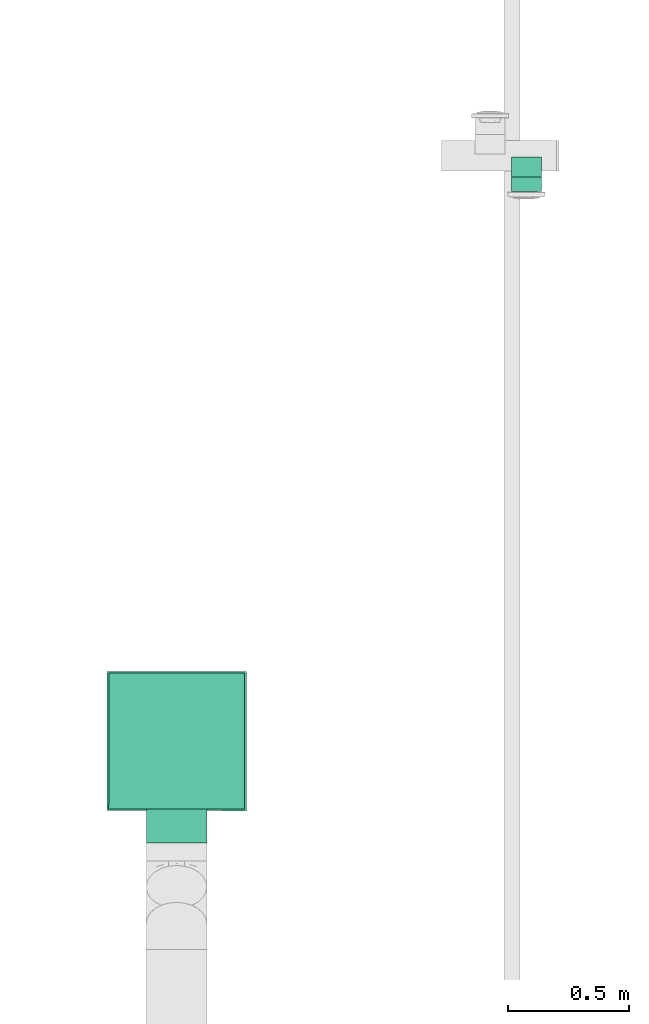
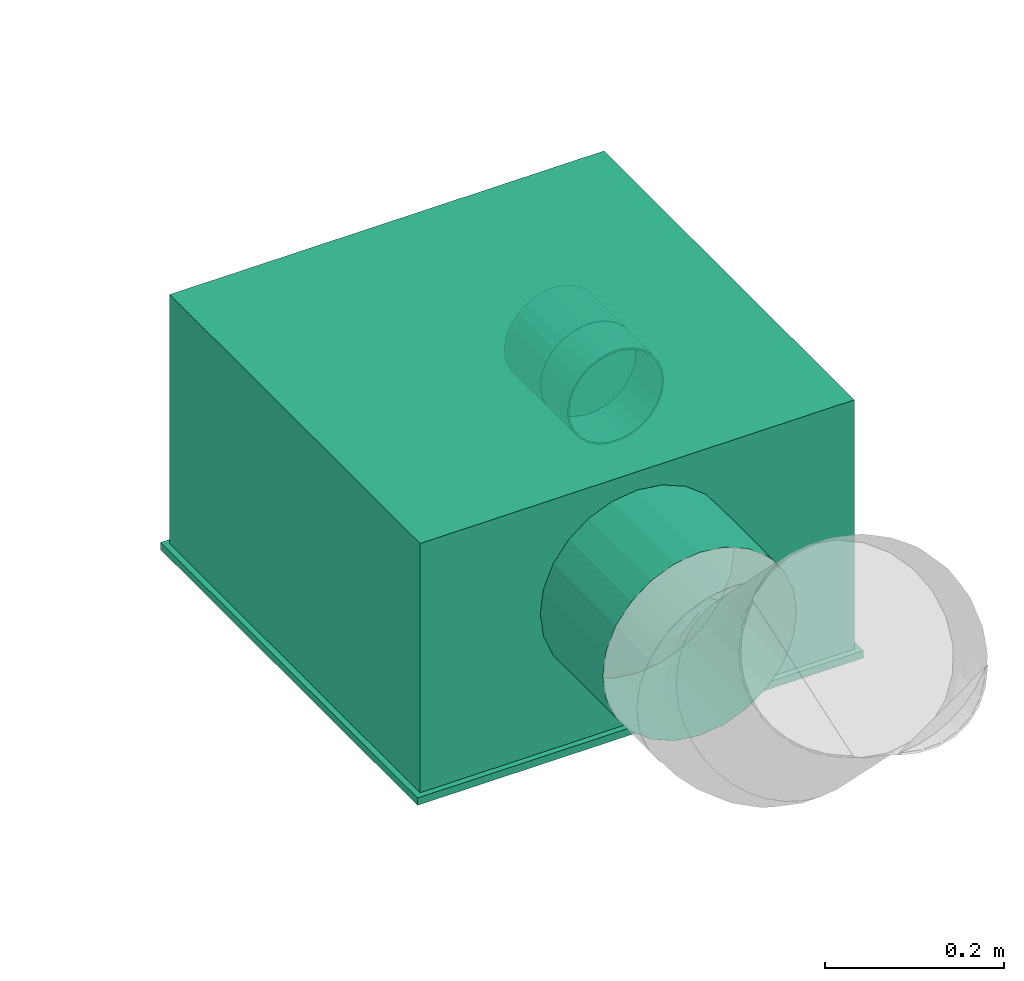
# One storey, part 32 of 63: 1 flow fitting, 1 flow segment, 1 flow terminal.
"""IFC2X3 building model written with IfcOpenShell, lengths in millimetres."""

import ifcopenshell
import ifcopenshell.guid

model = None  # the IFC model being written
_history = None  # IfcOwnerHistory: only IFC2X3 demands one
_inside = {}  # id of a spatial element -> (the spatial element, [elements in it])
_under = {}  # id of a project, library or spatial element -> (it, [spatial elements below it])
_declared = {}  # id of a project -> (the project, [libraries it declares])
_typed = {}  # id of a type object -> (the type object, [elements of that type])
_made_of = {}  # id of a material, layer set ... -> (it, [elements and type objects made of it])


def new_model(schema):
    """Start an empty IFC model of exactly this schema.

    Asked for "IFC4X3", IfcOpenShell would pick the latest addendum, in which some entities
    have other attributes; the version numbers below select the first issue.
    IFC2X3 requires an IfcOwnerHistory on every rooted entity: one is made here for all.
    """
    global model, _history
    if schema == "IFC4X3":
        model = ifcopenshell.file(schema_version=(4, 3, 0, 0))
    else:
        model = ifcopenshell.file(schema=schema)
    _inside.clear()
    _under.clear()
    _declared.clear()
    _typed.clear()
    _made_of.clear()
    _history = None
    if model.schema == "IFC2X3":
        org = make("IfcOrganization", Name="unknown")
        user = make(
            "IfcPersonAndOrganization",
            ThePerson=make("IfcPerson", FamilyName="unknown"),
            TheOrganization=org,
        )
        app = make(
            "IfcApplication",
            ApplicationDeveloper=org,
            Version="unknown",
            ApplicationFullName="unknown",
            ApplicationIdentifier="unknown",
        )
        _history = make(
            "IfcOwnerHistory",
            OwningUser=user,
            OwningApplication=app,
            ChangeAction="ADDED",
            CreationDate=0,
        )
    return model


def make(cls, **values):
    """One entity of the class cls with the attributes given. An attribute that is None is left unset."""
    return model.create_entity(
        cls, **{name: value for name, value in values.items() if value is not None}
    )


def entity(cls, *values):
    """Any entity or typed value of the class cls, its attributes in the order of the schema. None: left unset."""
    e = model.create_entity(cls)
    for i, value in enumerate(values):
        if value is not None:
            e[i] = value
    return e


def rooted(cls, **values):
    """An entity with a GlobalId (a new one), such as an element, a storey or a relation."""
    return make(cls, GlobalId=ifcopenshell.guid.new(), OwnerHistory=_history, **values)


def si_unit(unit_type, name, prefix=None):
    """IfcSIUnit, for example si_unit("LENGTHUNIT", "METRE", prefix="MILLI")."""
    return make("IfcSIUnit", UnitType=unit_type, Prefix=prefix, Name=name)


def converted_unit(unit_type, name, factor, base, dimensions=None, offset=None):
    """IfcConversionBasedUnit, such as the inch: factor (a typed value) times the base unit."""
    return make(
        "IfcConversionBasedUnit"
        if offset is None
        else "IfcConversionBasedUnitWithOffset",
        ConversionOffset=offset,
        Dimensions=None
        if dimensions is None
        else entity("IfcDimensionalExponents", *dimensions),
        UnitType=unit_type,
        Name=name,
        ConversionFactor=make(
            "IfcMeasureWithUnit", ValueComponent=factor, UnitComponent=base
        ),
    )


def derived_unit(unit_type, elements):
    """IfcDerivedUnit: a product of units, each with its exponent."""
    return make(
        "IfcDerivedUnit",
        Elements=[
            make("IfcDerivedUnitElement", Unit=unit, Exponent=power)
            for unit, power in elements
        ],
        UnitType=unit_type,
    )


def assignment(units):
    """IfcUnitAssignment: the units of a project."""
    return None if units is None else make("IfcUnitAssignment", Units=units)


def point(xyz):
    """IfcCartesianPoint."""
    return None if xyz is None else make("IfcCartesianPoint", Coordinates=xyz)


def direction(xyz):
    """IfcDirection."""
    return None if xyz is None else make("IfcDirection", DirectionRatios=xyz)


def frame(location, z_axis=None, x_axis=None):
    """IfcAxis2Placement3D, a coordinate frame: its origin and axes. An axis left out is left unset."""
    return make(
        "IfcAxis2Placement3D",
        Location=point(location),
        Axis=direction(z_axis),
        RefDirection=direction(x_axis),
    )


def frame_2d(location, x_axis=None):
    """IfcAxis2Placement2D, a coordinate frame in the plane: its origin and x axis."""
    return make(
        "IfcAxis2Placement2D", Location=point(location), RefDirection=direction(x_axis)
    )


def origin_with_axes():
    """The frame at (0, 0, 0) with the z axis (0, 0, 1) and the x axis (1, 0, 0) written out."""
    return frame((0.0, 0.0, 0.0), z_axis=(0.0, 0.0, 1.0), x_axis=(1.0, 0.0, 0.0))


def origin_2d_with_axis():
    """The frame at (0, 0) in the plane with the x axis (1, 0) written out."""
    return frame_2d((0.0, 0.0), x_axis=(1.0, 0.0))


def place(relative_to, where):
    """IfcLocalPlacement: puts the frame where relative to a parent placement (None: the world)."""
    return make(
        "IfcLocalPlacement", PlacementRelTo=relative_to, RelativePlacement=where
    )


def context(
    kind, dimensions, precision=None, world=None, true_north=None, identifier=None
):
    """IfcGeometricRepresentationContext, for example the 3D "Model" context."""
    return make(
        "IfcGeometricRepresentationContext",
        ContextIdentifier=identifier,
        ContextType=kind,
        CoordinateSpaceDimension=dimensions,
        Precision=precision,
        WorldCoordinateSystem=world,
        TrueNorth=true_north,
    )


def subcontext(parent, identifier, kind, view, scale=None):
    """IfcGeometricRepresentationSubContext, for example "Body" below "Model"."""
    return make(
        "IfcGeometricRepresentationSubContext",
        ContextIdentifier=identifier,
        ContextType=kind,
        ParentContext=parent,
        TargetScale=scale,
        TargetView=view,
    )


def project(units=None, contexts=None):
    """IfcProject with its units and contexts."""
    return rooted(
        "IfcProject",
        Name="project",
        RepresentationContexts=contexts,
        UnitsInContext=assignment(units),
    )


def spatial(cls, under=None, at=None, **own):
    """A site, building, storey or space (cls), placed at a placement, below another one or the project."""
    s = rooted(cls, ObjectPlacement=at, **own)
    if under is not None:
        _under.setdefault(under.id(), (under, []))[1].append(s)
    return s


def profile(cls, at=None, kind="AREA", **sizes):
    """A parametric profile (cls). Its sizes go by their IFC names, for example OverallWidth=200.0."""
    return make(cls, ProfileType=kind, Position=at, **sizes)


def hollow_circle(**sizes):
    """IfcCircleHollowProfileDef."""
    return profile("IfcCircleHollowProfileDef", **sizes)


def extrude(swept, where, along, depth):
    """IfcExtrudedAreaSolid: the profile swept, set in the frame where, extruded along a direction by depth."""
    return make(
        "IfcExtrudedAreaSolid",
        SweptArea=swept,
        Position=where,
        ExtrudedDirection=direction(along),
        Depth=depth,
    )


def faces_of(points, faces, orient=None, outer=None):
    """IfcFace entities. A face is a list of loops; a loop is a list of indices into points, from 0.

    orient and outer hold one flag for each loop. By default every Orientation is true, the
    first loop of a face is its IfcFaceOuterBound and the others are IfcFaceBound.
    """
    made = []
    for i, loops in enumerate(faces):
        bounds = []
        for j, loop in enumerate(loops):
            is_outer = j == 0 if outer is None else outer[i][j]
            bounds.append(
                make(
                    "IfcFaceOuterBound" if is_outer else "IfcFaceBound",
                    Bound=make("IfcPolyLoop", Polygon=[points[k] for k in loop]),
                    Orientation=True if orient is None else orient[i][j],
                )
            )
        made.append(make("IfcFace", Bounds=bounds))
    return made


def open_shell(faces, orient=None, outer=None):
    """The faces of one IfcOpenShell. surface_model builds it on its shared points."""
    return ("IfcOpenShell", faces, orient, outer)


def surface_model(cls, points, shells):
    """IfcFaceBasedSurfaceModel or IfcShellBasedSurfaceModel (cls): surfaces that need not close."""
    shared = [point(p) for p in points]
    made = [make(c, CfsFaces=faces_of(shared, fs, o, b)) for c, fs, o, b in shells]
    if cls == "IfcFaceBasedSurfaceModel":
        return make(cls, FbsmFaces=made)
    return make(cls, SbsmBoundary=made)


def shape(context_of_items, identifier, shape_type, items):
    """IfcShapeRepresentation: the items that make up one representation, for example the "Body"."""
    return make(
        "IfcShapeRepresentation",
        ContextOfItems=context_of_items,
        RepresentationIdentifier=identifier,
        RepresentationType=shape_type,
        Items=items,
    )


def source(mapping_origin, context_of_items, identifier, shape_type, items):
    """IfcRepresentationMap: a shape defined once, which mapped items show again and again."""
    return make(
        "IfcRepresentationMap",
        MappingOrigin=mapping_origin,
        MappedRepresentation=shape(context_of_items, identifier, shape_type, items),
    )


def transform(
    local_origin,
    x_axis=None,
    y_axis=None,
    z_axis=None,
    scale=None,
    scale2=None,
    scale3=None,
    uniform=True,
):
    """IfcCartesianTransformationOperator3D, or its non-uniform kind. x_axis, y_axis, z_axis: its Axis1, 2, 3."""
    if uniform:
        return make(
            "IfcCartesianTransformationOperator3D",
            Axis1=direction(x_axis),
            Axis2=direction(y_axis),
            LocalOrigin=point(local_origin),
            Scale=scale,
            Axis3=direction(z_axis),
        )
    return make(
        "IfcCartesianTransformationOperator3DnonUniform",
        Axis1=direction(x_axis),
        Axis2=direction(y_axis),
        LocalOrigin=point(local_origin),
        Scale=scale,
        Axis3=direction(z_axis),
        Scale2=scale2,
        Scale3=scale3,
    )


def mapped(mapping_source, mapping_target):
    """IfcMappedItem: shows the shape of a source again, moved by a transform."""
    return make(
        "IfcMappedItem", MappingSource=mapping_source, MappingTarget=mapping_target
    )


def made_of(thing, what):
    """Note that an element or type object is made of a material, layer set ...; save() writes the relation."""
    if what is not None:
        _made_of.setdefault(what.id(), (what, []))[1].append(thing)
    return thing


def type_object(cls, material=None, **own):
    """A type object (cls), such as IfcWallType, which elements share."""
    return made_of(rooted(cls, **own), material)


def element(
    cls,
    number,
    at=None,
    inside=None,
    cuts=None,
    type_object=None,
    material=None,
    context=None,
    identifier="Body",
    shape_type=None,
    held_by="IfcProductDefinitionShape",
    body=None,
    shapes=None,
    **own,
):
    """One element of the class cls, such as IfcWall. Its Tag is "e" and its number.

    at: its placement. inside: the storey or other place that contains it. cuts: it is an
    opening in that element (IfcRelVoidsElement). A single representation is given by context,
    identifier, shape_type and body (its items); several are given by shapes. held_by: the class
    of the entity that holds the representations. save() writes the other relations.
    """
    e = rooted(cls, Tag="e%d" % number, ObjectPlacement=at, **own)
    if body is not None:
        shapes = [shape(context, identifier, shape_type, body)]
    if shapes is not None:
        e.Representation = make(held_by, Representations=shapes)
    if inside is not None:
        _inside.setdefault(inside.id(), (inside, []))[1].append(e)
    if cuts is not None:
        rooted(
            "IfcRelVoidsElement", RelatingBuildingElement=cuts, RelatedOpeningElement=e
        )
    if type_object is not None:
        _typed.setdefault(type_object.id(), (type_object, []))[1].append(e)
    return made_of(e, material)


def aggregate(whole, parts):
    """IfcRelAggregates: a whole, such as a stair, and the parts it consists of."""
    return rooted("IfcRelAggregates", RelatingObject=whole, RelatedObjects=parts)


def save(model, path):
    """Write the relations noted so far, then the file.

    IfcRelAggregates (storeys below a building ...), IfcRelContainedInSpatialStructure (elements
    in a storey), IfcRelDefinesByType, IfcRelAssociatesMaterial and IfcRelDeclares: one each for
    every whole, place, type object, material and project.
    """
    for whole, parts in _under.values():
        aggregate(whole, parts)
    for where, things in _inside.values():
        rooted(
            "IfcRelContainedInSpatialStructure",
            RelatedElements=things,
            RelatingStructure=where,
        )
    for kind, things in _typed.values():
        rooted("IfcRelDefinesByType", RelatedObjects=things, RelatingType=kind)
    for what, things in _made_of.values():
        rooted("IfcRelAssociatesMaterial", RelatedObjects=things, RelatingMaterial=what)
    for by, libraries in _declared.values():
        rooted("IfcRelDeclares", RelatingContext=by, RelatedDefinitions=libraries)
    model.write(path)


model = new_model("IFC2X3")

# Units and contexts
model_context = context("Model", 3, precision=0.01, world=frame((0.0, 4.29681676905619e-09, 0.0)), true_north=direction((4.01073788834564e-13, 1.0)))
plan_context = context("Plan", 3, precision=0.01, world=frame((0.0, 4.29681676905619e-09, 0.0)), true_north=direction((4.01073788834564e-13, 1.0)))
body_context = subcontext(model_context, "Body", "Model", "MODEL_VIEW")
ifc_project = project(units=[converted_unit("PLANEANGLEUNIT", "DEGREE", entity("IfcPositiveLengthMeasure", 0.0174532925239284), si_unit("PLANEANGLEUNIT", "RADIAN"), dimensions=[0, 0, 0, 0, 0, 0, 0]), si_unit("AREAUNIT", "SQUARE_METRE"), si_unit("LENGTHUNIT", "METRE", prefix="MILLI"), si_unit("MASSUNIT", "GRAM", prefix="KILO"), si_unit("POWERUNIT", "WATT"), si_unit("PRESSUREUNIT", "PASCAL"), si_unit("FORCEUNIT", "NEWTON", prefix="KILO"), si_unit("ELECTRICVOLTAGEUNIT", "VOLT"), si_unit("ELECTRICCURRENTUNIT", "AMPERE"), si_unit("THERMODYNAMICTEMPERATUREUNIT", "DEGREE_CELSIUS"), si_unit("TIMEUNIT", "SECOND"), si_unit("VOLUMEUNIT", "CUBIC_METRE"), derived_unit("LINEARVELOCITYUNIT", [(si_unit("LENGTHUNIT", "METRE"), 1), (si_unit("TIMEUNIT", "SECOND"), -1)]), derived_unit("VOLUMETRICFLOWRATEUNIT", [(si_unit("VOLUMEUNIT", "CUBIC_METRE"), 1), (si_unit("TIMEUNIT", "SECOND"), -1)]), derived_unit("THERMALTRANSMITTANCEUNIT", [(si_unit("POWERUNIT", "WATT"), 1), (si_unit("THERMODYNAMICTEMPERATUREUNIT", "KELVIN"), -1), (si_unit("AREAUNIT", "SQUARE_METRE"), -1)]), derived_unit("SOUNDPRESSUREUNIT", [(si_unit("PRESSUREUNIT", "PASCAL"), 1)])], contexts=[model_context, plan_context])

# Site, building, storey
site_placement = place(None, frame((0.0, -4.29681676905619e-09, 0.0), z_axis=(0.0, 0.0, 1.0), x_axis=(1.0, 0.0, 0.0)))
site = spatial("IfcSite", under=ifc_project, at=site_placement, CompositionType="ELEMENT")
building_placement = place(site_placement, frame((0.0, 4.29681676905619e-09, 0.0), z_axis=(0.0, 0.0, 1.0), x_axis=(1.0, 0.0, 0.0)))
building = spatial("IfcBuilding", under=site, at=building_placement, Name="mc-building", CompositionType="ELEMENT")
storey_placement = place(building_placement, frame((0.0, 0.0, 210900.0), z_axis=(0.0, 0.0, 1.0), x_axis=(1.0, 0.0, 0.0)))
storey = spatial("IfcBuildingStorey", under=building, at=storey_placement, Name="Nivå F", CompositionType="ELEMENT", Elevation=210900.0)

# Flow fitting
duct_fitting_type = type_object("IfcDuctFittingType", Name="magicirc_tapoutlet_001", PredefinedType="CONNECTOR")
shared_shape_1 = source(origin_with_axes(), body_context, "Body", "SurfaceModel", [
    surface_model("IfcShellBasedSurfaceModel", [(25.0, 0.0, -62.5), (25.0, -31.25, -54.12659), (25.0, -16.17619, -60.37037), (25.0, 44.19417, -44.19417), (25.0, 62.5, 0.0), (25.0, 31.25, -54.12659), (25.0, 54.12659, -31.25), (25.0, -62.5, 0.0), (25.0, -60.37037, -16.17619), (25.0, -60.37037, 16.17619), (25.0, 16.17619, -60.37037), (25.0, -44.19417, -44.19417), (25.0, -54.12659, -31.25), (25.0, 60.37037, -16.17619), (25.0, 60.37037, 16.17619), (25.0, 54.12659, 31.25), (25.0, 44.19417, 44.19417), (25.0, 31.25, 54.12659), (25.0, 0.0, 62.5), (25.0, 16.17619, 60.37037), (25.0, -44.19417, 44.19417), (25.0, -54.12659, 31.25), (25.0, -16.17619, 60.37037), (25.0, -31.25, 54.12659), (0.0, 0.0, 62.5), (0.0, 16.17619, 60.37037), (0.0, 31.25, 54.12659), (0.0, 44.19417, 44.19417), (0.0, 54.12659, 31.25), (0.0, 60.37037, 16.17619), (0.0, 62.5, 0.0), (0.0, 60.37037, -16.17619), (0.0, 54.12659, -31.25), (0.0, 44.19417, -44.19417), (0.0, 31.25, -54.12659), (0.0, 16.17619, -60.37037), (0.0, 0.0, -62.5), (0.0, -16.17619, -60.37037), (0.0, -31.25, -54.12659), (0.0, -44.19417, -44.19417), (0.0, -54.12659, -31.25), (0.0, -60.37037, -16.17619), (0.0, -62.5, 0.0), (0.0, -60.37037, 16.17619), (0.0, -54.12659, 31.25), (0.0, -44.19417, 44.19417), (0.0, -31.25, 54.12659), (0.0, -16.17619, 60.37037), (-56.404, -44.19417, -44.19417), (-56.404, -54.12659, -31.25), (-56.404, -62.5, 0.0), (-56.404, -31.25, -54.12659), (-56.404, 0.0, -62.5), (-56.404, 62.5, 0.0), (-56.404, 60.37037, -16.17619), (-56.404, 60.37037, 16.17619), (-56.404, -16.17619, -60.37037), (-56.404, 16.17619, -60.37037), (-56.404, 31.25, -54.12659), (-56.404, 44.19417, -44.19417), (-56.404, 54.12659, -31.25), (-56.404, -60.37037, 16.17619), (-56.404, -60.37037, -16.17619), (-56.404, 54.12659, 31.25), (-56.404, 44.19417, 44.19417), (-56.404, 16.17619, 60.37037), (-56.404, 31.25, 54.12659), (-56.404, -16.17619, 60.37037), (-56.404, -54.12659, 31.25), (-56.404, -44.19417, 44.19417), (-56.404, -31.25, 54.12659), (-56.404, 0.0, 62.5)], [open_shell([[[0, 1, 2]], [[3, 4, 5]], [[3, 6, 4]], [[7, 8, 9]], [[10, 4, 0]], [[5, 4, 10]], [[11, 0, 9]], [[0, 11, 1]], [[1, 2, 0]], [[12, 9, 8]], [[9, 12, 11]], [[8, 9, 7]], [[4, 6, 13]], [[14, 15, 0]], [[0, 15, 16]], [[0, 17, 18]], [[16, 17, 0]], [[17, 19, 18]], [[0, 20, 21]], [[21, 9, 0]], [[22, 23, 0]], [[23, 20, 0]], [[22, 0, 18]], [[4, 14, 0]], [[24, 18, 19]], [[25, 19, 17]], [[24, 19, 25]], [[26, 16, 27]], [[26, 25, 17]], [[16, 26, 17]], [[28, 15, 14]], [[29, 14, 4]], [[27, 15, 28]], [[29, 28, 14]], [[30, 29, 4]], [[15, 27, 16]], [[30, 4, 13]], [[31, 13, 6]], [[30, 13, 31]], [[32, 3, 33]], [[32, 31, 6]], [[3, 32, 6]], [[34, 5, 10]], [[35, 10, 0]], [[33, 5, 34]], [[35, 34, 10]], [[36, 35, 0]], [[5, 33, 3]], [[36, 0, 2]], [[37, 2, 1]], [[36, 2, 37]], [[38, 11, 39]], [[38, 37, 1]], [[11, 38, 1]], [[40, 12, 8]], [[41, 8, 7]], [[39, 12, 40]], [[41, 40, 8]], [[42, 41, 7]], [[12, 39, 11]], [[42, 7, 9]], [[43, 9, 21]], [[42, 9, 43]], [[44, 20, 45]], [[44, 43, 21]], [[20, 44, 21]], [[46, 23, 22]], [[47, 22, 18]], [[45, 23, 46]], [[47, 46, 22]], [[24, 47, 18]], [[23, 45, 20]], [[15, 0, 14]], [[15, 16, 0]], [[0, 16, 17]], [[18, 17, 19]], [[9, 0, 21]], [[0, 23, 20]], [[18, 22, 0]], [[14, 0, 4]], [[48, 49, 50]], [[48, 50, 51]], [[36, 37, 52]], [[52, 35, 36]], [[53, 54, 55]], [[52, 56, 57]], [[57, 55, 58]], [[59, 55, 60]], [[58, 55, 59]], [[57, 50, 61]], [[56, 51, 50]], [[62, 50, 49]], [[50, 57, 56]], [[54, 60, 55]], [[55, 57, 63]], [[64, 63, 57]], [[57, 65, 66]], [[57, 66, 64]], [[57, 67, 65]], [[68, 69, 57]], [[57, 61, 68]], [[69, 70, 57]], [[57, 70, 67]], [[67, 71, 65]], [[71, 24, 25]], [[66, 25, 26]], [[71, 25, 65]], [[65, 25, 66]], [[26, 64, 66]], [[26, 27, 64]], [[55, 28, 29]], [[53, 29, 30]], [[27, 63, 64]], [[27, 28, 63]], [[63, 28, 55]], [[29, 53, 55]], [[54, 30, 31]], [[60, 31, 32]], [[53, 30, 54]], [[54, 31, 60]], [[32, 59, 60]], [[32, 33, 59]], [[57, 34, 35]], [[33, 58, 59]], [[33, 34, 58]], [[58, 34, 57]], [[35, 52, 57]], [[37, 38, 51]], [[52, 37, 56]], [[48, 51, 38]], [[37, 51, 56]], [[38, 39, 48]], [[62, 40, 41]], [[50, 41, 42]], [[39, 49, 48]], [[39, 40, 49]], [[49, 40, 62]], [[41, 50, 62]], [[43, 44, 68]], [[42, 43, 61]], [[61, 50, 42]], [[68, 61, 43]], [[44, 69, 68]], [[44, 45, 69]], [[67, 46, 47]], [[71, 47, 24]], [[45, 70, 69]], [[45, 46, 70]], [[70, 46, 67]], [[47, 71, 67]], [[57, 63, 55]], [[57, 64, 63]], [[66, 57, 65]], [[66, 64, 57]], [[65, 57, 67]], [[68, 57, 61]]])]),
])
flow_fitting_placement = place(storey_placement, frame((535548.85714, 456750.54565, 2163.0), z_axis=(0.0, 0.0, -1.0), x_axis=(0.0, -1.0, 0.0)))
element("IfcFlowFitting", 1, at=flow_fitting_placement, inside=storey, type_object=duct_fitting_type, Name="magicirc_tapoutlet_001", context=body_context, shape_type="MappedRepresentation", body=[
    mapped(shared_shape_1, transform((0.0, 0.0, 0.0), scale=1.0)),
])

# Flow segment
duct_segment_type = type_object("IfcDuctSegmentType", Name="KK001T - Spiro kanaler, Forsinket stål", PredefinedType="RIGIDSEGMENT")
shared_shape_2 = source(origin_with_axes(), body_context, "Body", "SweptSolid", [
    extrude(hollow_circle(Radius=62.5, WallThickness=2.0, at=origin_2d_with_axis()), frame((0.0, 0.0, 0.0), z_axis=(1.0, 0.0, 0.0), x_axis=(0.0, 1.0, 0.0)), (0.0, 0.0, 1.0), 60.0),
])
flow_segment_placement = place(storey_placement, frame((535548.85714, 456725.54565, 2163.0), z_axis=(0.0, 0.0, 1.0), x_axis=(0.0, -1.0, 0.0)))
element("IfcFlowSegment", 2, at=flow_segment_placement, inside=storey, type_object=duct_segment_type, Name="KK001T - Spiro kanaler, Forsinket stål", context=body_context, shape_type="MappedRepresentation", body=[
    mapped(shared_shape_2, transform((0.0, 0.0, 0.0), scale=1.0)),
])

# Flow terminal
air_terminal_type = type_object("IfcAirTerminalType", Name="NS19-H-S-2-250 - 4-way", PredefinedType="NOTDEFINED")
shared_shape_3 = source(origin_with_axes(), body_context, "Body", "SurfaceModel", [
    surface_model("IfcShellBasedSurfaceModel", [(-287.5, 287.5, 0.0), (-287.5, -287.5, 0.0), (287.5, -287.5, 0.0), (287.5, 287.5, 0.0), (287.5, 287.5, -10.0), (287.5, -287.5, -10.0), (-287.5, -287.5, -10.0), (-287.5, 287.5, -10.0), (-280.0, 280.0, 340.0), (-280.0, -280.0, 340.0), (280.0, -280.0, 340.0), (280.0, 280.0, 340.0), (280.0, 280.0, 0.0), (280.0, -280.0, 0.0), (-280.0, -280.0, 0.0), (-280.0, 280.0, 0.0), (-280.0, 62.5, 81.74683), (-280.0, 88.38835, 101.61165), (-280.0, 62.4, 81.92003), (-280.0, 32.30062, 69.45246), (-280.0, 0.0, 65.2), (-280.0, 32.35238, 69.25927), (-280.0, 0.0, 65.0), (-280.0, 88.24693, 101.75307), (-280.0, 120.74073, 157.64763), (-280.0, 124.8, 189.99999), (-280.0, 120.54755, 157.69939), (-280.0, 125.0, 189.99999), (-280.0, 108.25318, 127.5), (-280.0, 108.07997, 127.6), (-280.0, -32.30062, 69.45246), (-280.0, -32.35238, 69.25927), (-280.0, -62.4, 81.92003), (-280.0, -88.38835, 101.61165), (-280.0, -62.5, 81.74683), (-280.0, -88.24693, 101.75307), (-280.0, -108.07997, 127.6), (-280.0, -108.25318, 127.5), (-280.0, -120.54755, 157.69939), (-280.0, -120.74073, 157.64763), (-280.0, -124.8, 189.99999), (-280.0, -125.0, 189.99999), (-280.0, 120.74073, 222.35238), (-280.0, 120.54755, 222.30062), (-280.0, 108.07997, 252.4), (-280.0, 108.25318, 252.49999), (-280.0, 88.24693, 278.24693), (-280.0, 88.38835, 278.38835), (-280.0, 62.5, 298.25318), (-280.0, 62.4, 298.07997), (-280.0, 32.30062, 310.54754), (-280.0, 32.35238, 310.74073), (-280.0, 0.0, 314.80001), (-280.0, 0.0, 315.0), (-280.0, -108.25318, 252.49999), (-280.0, -108.07997, 252.4), (-280.0, -88.38835, 278.38835), (-280.0, -88.24693, 278.24693), (-280.0, -120.74073, 222.35238), (-280.0, -120.54755, 222.30062), (-280.0, -32.30062, 310.54754), (-280.0, -32.35238, 310.74073), (-280.0, -62.4, 298.07997), (-280.0, -62.5, 298.25318), (-420.00002, 62.5, 298.25318), (-420.00002, 88.38835, 278.38835), (-420.00002, 62.4, 298.07997), (-420.00002, 32.30062, 310.54754), (-420.00002, 0.0, 314.80001), (-420.00002, 32.35238, 310.74073), (-420.00002, 0.0, 315.0), (-420.00002, 88.24693, 278.24693), (-420.00002, 120.74073, 222.35238), (-420.00002, 124.8, 189.99999), (-420.00002, 120.54755, 222.30062), (-420.00002, 125.0, 189.99999), (-420.00002, 108.25318, 252.49999), (-420.00002, 108.07997, 252.4), (-420.00002, -32.30062, 310.54754), (-420.00002, -32.35238, 310.74073), (-420.00002, -62.4, 298.07997), (-420.00002, -88.38835, 278.38835), (-420.00002, -62.5, 298.25318), (-420.00002, -88.24693, 278.24693), (-420.00002, -108.07997, 252.4), (-420.00002, -108.25318, 252.49999), (-420.00002, -120.54755, 222.30062), (-420.00002, -120.74073, 222.35238), (-420.00002, -124.8, 189.99999), (-420.00002, -125.0, 189.99999), (-420.00002, 120.74073, 157.64763), (-420.00002, 120.54755, 157.69939), (-420.00002, 108.07997, 127.6), (-420.00002, 108.25318, 127.5), (-420.00002, 88.24693, 101.75307), (-420.00002, 88.38835, 101.61165), (-420.00002, 62.5, 81.74683), (-420.00002, 62.4, 81.92003), (-420.00002, 32.30062, 69.45246), (-420.00002, 32.35238, 69.25927), (-420.00002, 0.0, 65.2), (-420.00002, 0.0, 65.0), (-420.00002, -108.25318, 127.5), (-420.00002, -108.07997, 127.6), (-420.00002, -88.38835, 101.61165), (-420.00002, -88.24693, 101.75307), (-420.00002, -120.74073, 157.64763), (-420.00002, -120.54755, 157.69939), (-420.00002, -32.30062, 69.45246), (-420.00002, -32.35238, 69.25927), (-420.00002, -62.4, 81.92003), (-420.00002, -62.5, 81.74683)], [open_shell([[[0, 1, 2]], [[2, 3, 0]], [[4, 5, 6]], [[6, 7, 4]], [[2, 1, 6]], [[6, 5, 2]], [[3, 2, 5]], [[5, 4, 3]], [[0, 3, 4]], [[4, 7, 0]], [[1, 0, 7]], [[7, 6, 1]], [[8, 9, 10]], [[10, 11, 8]], [[12, 13, 14]], [[14, 15, 12]], [[10, 9, 14]], [[14, 13, 10]], [[11, 10, 13]], [[13, 12, 11]], [[8, 11, 12]], [[12, 15, 8]], [[9, 8, 15]], [[15, 14, 9]], [[16, 17, 18]], [[16, 18, 19]], [[20, 21, 19]], [[21, 20, 22]], [[19, 21, 16]], [[18, 17, 23]], [[24, 25, 26]], [[25, 24, 27]], [[24, 26, 28]], [[23, 28, 29]], [[28, 23, 17]], [[29, 28, 26]], [[22, 30, 31]], [[31, 30, 32]], [[33, 34, 35]], [[32, 34, 31]], [[32, 35, 34]], [[22, 20, 30]], [[36, 37, 33]], [[37, 36, 38]], [[36, 33, 35]], [[39, 38, 40]], [[38, 39, 37]], [[39, 40, 41]], [[27, 42, 43]], [[43, 42, 44]], [[44, 45, 46]], [[45, 44, 42]], [[46, 45, 47]], [[47, 48, 49]], [[49, 48, 50]], [[50, 51, 52]], [[51, 50, 48]], [[52, 51, 53]], [[49, 46, 47]], [[54, 55, 56]], [[56, 55, 57]], [[55, 54, 58]], [[41, 59, 58]], [[58, 59, 55]], [[41, 40, 59]], [[60, 53, 61]], [[60, 61, 62]], [[57, 63, 56]], [[57, 62, 63]], [[63, 62, 61]], [[52, 53, 60]], [[43, 25, 27]], [[64, 65, 66]], [[64, 66, 67]], [[68, 69, 67]], [[69, 68, 70]], [[67, 69, 64]], [[66, 65, 71]], [[72, 73, 74]], [[73, 72, 75]], [[72, 74, 76]], [[71, 76, 77]], [[76, 71, 65]], [[77, 76, 74]], [[70, 78, 79]], [[79, 78, 80]], [[81, 82, 83]], [[80, 82, 79]], [[80, 83, 82]], [[70, 68, 78]], [[84, 85, 81]], [[85, 84, 86]], [[84, 81, 83]], [[87, 86, 88]], [[86, 87, 85]], [[87, 88, 89]], [[75, 90, 91]], [[91, 90, 92]], [[92, 93, 94]], [[93, 92, 90]], [[94, 93, 95]], [[95, 96, 97]], [[97, 96, 98]], [[98, 99, 100]], [[99, 98, 96]], [[100, 99, 101]], [[97, 94, 95]], [[102, 103, 104]], [[104, 103, 105]], [[103, 102, 106]], [[89, 107, 106]], [[106, 107, 103]], [[89, 88, 107]], [[108, 101, 109]], [[108, 109, 110]], [[105, 111, 104]], [[105, 110, 111]], [[111, 110, 109]], [[100, 101, 108]], [[91, 73, 75]], [[39, 106, 102]], [[104, 37, 102]], [[34, 111, 109]], [[104, 111, 33]], [[31, 109, 101]], [[106, 41, 89]], [[106, 39, 41]], [[102, 37, 39]], [[104, 33, 37]], [[34, 33, 111]], [[109, 31, 34]], [[101, 22, 31]], [[21, 99, 96]], [[95, 16, 96]], [[28, 93, 90]], [[95, 93, 17]], [[24, 90, 75]], [[99, 21, 22]], [[96, 16, 21]], [[95, 17, 16]], [[93, 28, 17]], [[24, 28, 90]], [[75, 27, 24]], [[99, 22, 101]], [[42, 75, 72]], [[45, 72, 76]], [[48, 64, 69]], [[51, 69, 70]], [[72, 45, 42]], [[42, 27, 75]], [[65, 47, 45]], [[47, 65, 48]], [[48, 65, 64]], [[69, 51, 48]], [[65, 45, 76]], [[70, 53, 51]], [[61, 79, 82]], [[81, 63, 82]], [[54, 85, 87]], [[81, 85, 56]], [[58, 87, 89]], [[79, 61, 53]], [[82, 63, 61]], [[81, 56, 63]], [[85, 54, 56]], [[58, 54, 87]], [[89, 41, 58]], [[79, 53, 70]], [[103, 107, 38]], [[103, 36, 105]], [[108, 110, 32]], [[35, 110, 105]], [[100, 108, 30]], [[88, 40, 107]], [[40, 38, 107]], [[38, 36, 103]], [[36, 35, 105]], [[110, 35, 32]], [[32, 30, 108]], [[30, 20, 100]], [[97, 98, 19]], [[97, 18, 94]], [[91, 92, 29]], [[23, 92, 94]], [[73, 91, 26]], [[20, 19, 98]], [[19, 18, 97]], [[18, 23, 94]], [[23, 29, 92]], [[91, 29, 26]], [[26, 25, 73]], [[100, 20, 98]], [[74, 73, 43]], [[77, 74, 44]], [[67, 66, 49]], [[68, 67, 50]], [[43, 44, 74]], [[73, 25, 43]], [[44, 46, 71]], [[49, 71, 46]], [[66, 71, 49]], [[49, 50, 67]], [[77, 44, 71]], [[50, 52, 68]], [[80, 78, 60]], [[80, 62, 83]], [[86, 84, 55]], [[57, 84, 83]], [[88, 86, 59]], [[52, 60, 78]], [[60, 62, 80]], [[62, 57, 83]], [[57, 55, 84]], [[86, 55, 59]], [[59, 40, 88]], [[68, 52, 78]]])]),
])
flow_terminal_placement = place(storey_placement, frame((534105.91324, 454398.08957, 3770.0), z_axis=(0.0, 0.0, 1.0), x_axis=(0.000647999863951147, 0.999999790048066, 0.0)))
element("IfcFlowTerminal", 3, at=flow_terminal_placement, inside=storey, type_object=air_terminal_type, Name="NS19-H-S-2-250 - 4-way", context=body_context, shape_type="MappedRepresentation", body=[
    mapped(shared_shape_3, transform((0.0, 0.0, 0.0), scale=1.0)),
])

save(model, "model.ifc")
